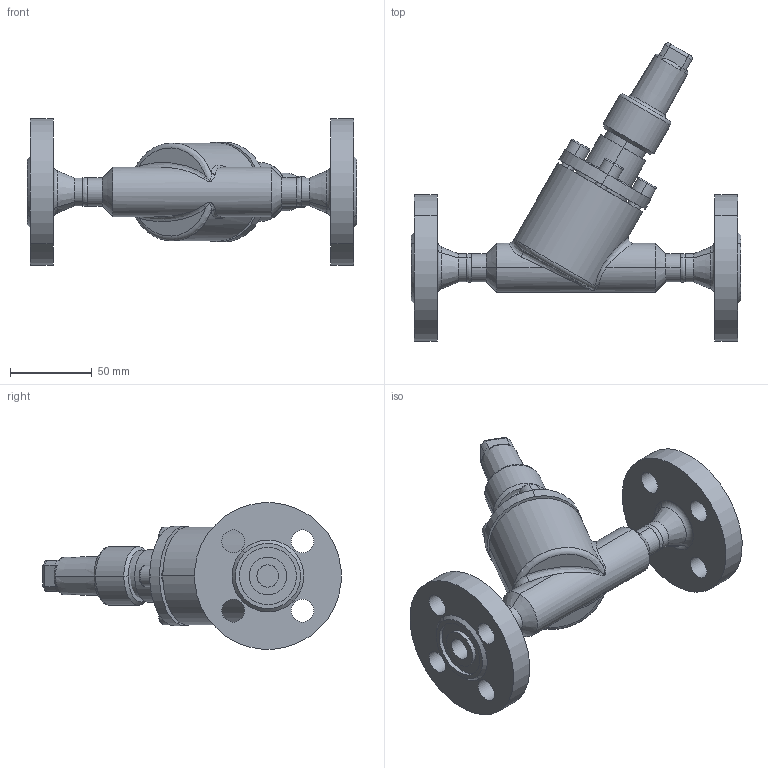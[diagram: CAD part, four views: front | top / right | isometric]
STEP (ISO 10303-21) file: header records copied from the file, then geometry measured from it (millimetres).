
FILE_DESCRIPTION (( 'STEP AP214' ), '1' );
FILE_NAME ('HRAB12320D08-DN010_DIN-FL-N_PS40.STEP', '2006-04-27T11:58:23', ( 'Herr Grams' ), ( 'AWP GmbH' ), 'SwSTEP 2.0', 'SolidWorks 2002296', '' );
FILE_SCHEMA (( 'AUTOMOTIVE_DESIGN' ));
Length unit declared in the file: millimetre
Products named in the file (10): HRAB12320D08-DN010_DIN-FL-N_PS40; Kappe96300E10_DN6-20_Standard; AVB16300K10_Deck+Schr-DN10-20_Standard; Deckel16300K10-DN10-20_Standard; Zylinderschraube-DIN912_M 8x 16; Gehäuse-kpl16320-DN010_DIN_PS40_Standard; Gehäuse16300-DN010_Standard; Flansch-DIN2635-Nut_PS40_DIN-Flansch-DN010_PS40-Nut; bead16320-DN010-1_Standard; bead16320-DN010-2_Standard
Assembly tree (13 placements, depth 3):
  HRAB12320D08-DN010_DIN-FL-N_PS40
    Kappe96300E10_DN6-20_Standard
    AVB16300K10_Deck+Schr-DN10-20_Standard
      Zylinderschraube-DIN912_M 8x 16  x4
      Deckel16300K10-DN10-20_Standard
    Gehäuse-kpl16320-DN010_DIN_PS40_Standard
      bead16320-DN010-2_Standard
      Flansch-DIN2635-Nut_PS40_DIN-Flansch-DN010_PS40-Nut  x2
      bead16320-DN010-1_Standard
      Gehäuse16300-DN010_Standard
Bounding box: 202 x 182.65 x 89.66 mm (x, y, z)
Volume: 444294.1 mm3; surface area: 99012 mm2
Topology: 11 solids, 11 shells, 297 faces, 651 edges, 408 vertices
Faces by surface type: cylinder 119, plane 89, cone 46, torus 29, bspline 14
Entity records: 21418 total; most frequent: CARTESIAN_POINT 15971, DIRECTION 1058, ORIENTED_EDGE 930, EDGE_CURVE 465, AXIS2_PLACEMENT_3D 452, VERTEX_POINT 290, EDGE_LOOP 255, CIRCLE 237
